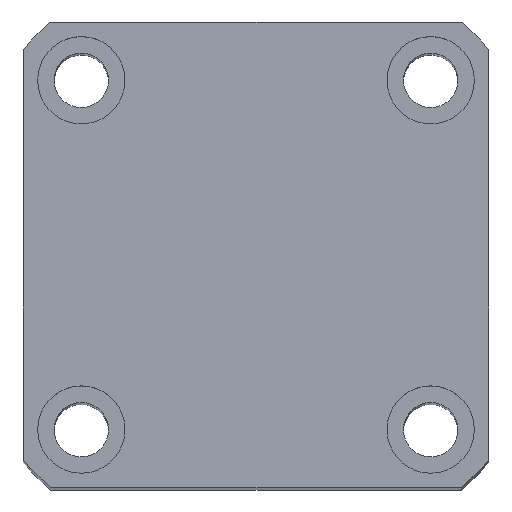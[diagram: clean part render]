
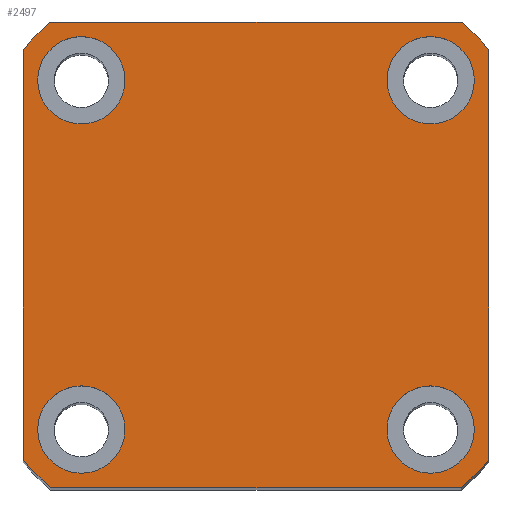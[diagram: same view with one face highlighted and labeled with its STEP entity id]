
A CAD part, top view. The second image highlights one B-rep face of the part: STEP entity #2497.
In plain terms, the highlighted planar face has unit normal (0, 0, 1) as drawn and (1, 0, 0) by its records, which use the part's own axes.
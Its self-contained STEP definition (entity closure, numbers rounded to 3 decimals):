
#54 = EDGE_CURVE ( 'NONE', #6651, #5654, #7591, .T. ) ;
#173 = EDGE_CURVE ( 'NONE', #2448, #7331, #5250, .T. ) ;
#281 = ORIENTED_EDGE ( 'NONE', *, *, #2162, .F. ) ;
#406 = CIRCLE ( 'NONE', #618, 4.5 ) ;
#460 = EDGE_LOOP ( 'NONE', ( #3754, #281 ) ) ;
#463 = DIRECTION ( 'NONE',  ( 0., 0., 1. ) ) ;
#482 = VERTEX_POINT ( 'NONE', #7792 ) ;
#589 = EDGE_CURVE ( 'NONE', #4722, #2448, #7112, .T. ) ;
#618 = AXIS2_PLACEMENT_3D ( 'NONE', #4843, #4381, #4356 ) ;
#712 = EDGE_CURVE ( 'NONE', #7085, #6561, #6348, .T. ) ;
#797 = AXIS2_PLACEMENT_3D ( 'NONE', #1603, #5931, #2244 ) ;
#856 = ORIENTED_EDGE ( 'NONE', *, *, #5613, .T. ) ;
#914 = CARTESIAN_POINT ( 'NONE',  ( 130., 21.166, -24. ) ) ;
#1013 = VECTOR ( 'NONE', #5710, 1000. ) ;
#1017 = VERTEX_POINT ( 'NONE', #4828 ) ;
#1026 = EDGE_CURVE ( 'NONE', #7331, #2629, #1920, .T. ) ;
#1052 = CARTESIAN_POINT ( 'NONE',  ( 130., 18., 13.5 ) ) ;
#1096 = LINE ( 'NONE', #4284, #4466 ) ;
#1099 = AXIS2_PLACEMENT_3D ( 'NONE', #6072, #2405, #6678 ) ;
#1102 = CARTESIAN_POINT ( 'NONE',  ( 130., -18., -22.5 ) ) ;
#1150 = DIRECTION ( 'NONE',  ( 1., 0., 0. ) ) ;
#1237 = ORIENTED_EDGE ( 'NONE', *, *, #712, .F. ) ;
#1389 = CIRCLE ( 'NONE', #1099, 4.5 ) ;
#1434 = CARTESIAN_POINT ( 'NONE',  ( 130., -24., 24. ) ) ;
#1595 = CIRCLE ( 'NONE', #797, 32. ) ;
#1603 = CARTESIAN_POINT ( 'NONE',  ( 130., 0., 0. ) ) ;
#1611 = FACE_BOUND ( 'NONE', #460, .T. ) ;
#1732 = EDGE_CURVE ( 'NONE', #3979, #1837, #7563, .T. ) ;
#1800 = FACE_OUTER_BOUND ( 'NONE', #3899, .T. ) ;
#1837 = VERTEX_POINT ( 'NONE', #914 ) ;
#1912 = AXIS2_PLACEMENT_3D ( 'NONE', #4241, #3784, #3755 ) ;
#1920 = LINE ( 'NONE', #1434, #6816 ) ;
#1943 = ORIENTED_EDGE ( 'NONE', *, *, #173, .T. ) ;
#1950 = AXIS2_PLACEMENT_3D ( 'NONE', #4901, #1150, #5505 ) ;
#2000 = EDGE_CURVE ( 'NONE', #1837, #3776, #3811, .T. ) ;
#2050 = EDGE_CURVE ( 'NONE', #2777, #1017, #406, .T. ) ;
#2059 = EDGE_CURVE ( 'NONE', #5654, #6651, #3603, .T. ) ;
#2157 = ORIENTED_EDGE ( 'NONE', *, *, #1026, .T. ) ;
#2162 = EDGE_CURVE ( 'NONE', #1017, #2777, #7656, .T. ) ;
#2244 = DIRECTION ( 'NONE',  ( 0., 0., -1. ) ) ;
#2264 = CARTESIAN_POINT ( 'NONE',  ( 130., 24., -24. ) ) ;
#2340 = CARTESIAN_POINT ( 'NONE',  ( 130., 18., 18. ) ) ;
#2377 = AXIS2_PLACEMENT_3D ( 'NONE', #6200, #6336, #5958 ) ;
#2405 = DIRECTION ( 'NONE',  ( 1., 0., 0. ) ) ;
#2448 = VERTEX_POINT ( 'NONE', #5173 ) ;
#2467 = VERTEX_POINT ( 'NONE', #2669 ) ;
#2497 = ADVANCED_FACE ( 'NONE', ( #1611, #4763, #7908, #3110, #1800 ), #6079, .T. ) ;
#2575 = CARTESIAN_POINT ( 'NONE',  ( 130., 24., 24. ) ) ;
#2629 = VERTEX_POINT ( 'NONE', #7064 ) ;
#2645 = CARTESIAN_POINT ( 'NONE',  ( 130., -24., 21.166 ) ) ;
#2669 = CARTESIAN_POINT ( 'NONE',  ( 130., -18., 13.5 ) ) ;
#2777 = VERTEX_POINT ( 'NONE', #1102 ) ;
#2878 = CARTESIAN_POINT ( 'NONE',  ( 130., 18., -22.5 ) ) ;
#2944 = DIRECTION ( 'NONE',  ( 0., 0., -1. ) ) ;
#2994 = DIRECTION ( 'NONE',  ( 0., 0., -1. ) ) ;
#3010 = CARTESIAN_POINT ( 'NONE',  ( 130., 0., 0. ) ) ;
#3018 = DIRECTION ( 'NONE',  ( 1., 0., 0. ) ) ;
#3062 = DIRECTION ( 'NONE',  ( 1., 0., 0. ) ) ;
#3073 = CARTESIAN_POINT ( 'NONE',  ( 130., 24., -21.166 ) ) ;
#3110 = FACE_BOUND ( 'NONE', #5193, .T. ) ;
#3128 = CARTESIAN_POINT ( 'NONE',  ( 130., 18., -18. ) ) ;
#3377 = CARTESIAN_POINT ( 'NONE',  ( 130., 18., 22.5 ) ) ;
#3414 = AXIS2_PLACEMENT_3D ( 'NONE', #7881, #7170, #6548 ) ;
#3495 = DIRECTION ( 'NONE',  ( 1., 0., 0. ) ) ;
#3537 = ORIENTED_EDGE ( 'NONE', *, *, #3590, .F. ) ;
#3590 = EDGE_CURVE ( 'NONE', #2467, #482, #7163, .T. ) ;
#3603 = CIRCLE ( 'NONE', #1912, 4.5 ) ;
#3667 = DIRECTION ( 'NONE',  ( 0., 0., -1. ) ) ;
#3754 = ORIENTED_EDGE ( 'NONE', *, *, #2050, .F. ) ;
#3755 = DIRECTION ( 'NONE',  ( 0., 0., -1. ) ) ;
#3776 = VERTEX_POINT ( 'NONE', #3073 ) ;
#3784 = DIRECTION ( 'NONE',  ( 1., 0., 0. ) ) ;
#3811 = CIRCLE ( 'NONE', #7385, 32. ) ;
#3851 = ORIENTED_EDGE ( 'NONE', *, *, #589, .T. ) ;
#3899 = EDGE_LOOP ( 'NONE', ( #5995, #4224, #856, #4061, #3851, #1943, #2157, #5056 ) ) ;
#3978 = DIRECTION ( 'NONE',  ( 0., -1., 0. ) ) ;
#3979 = VERTEX_POINT ( 'NONE', #7971 ) ;
#4061 = ORIENTED_EDGE ( 'NONE', *, *, #4822, .T. ) ;
#4133 = VECTOR ( 'NONE', #3978, 1000. ) ;
#4224 = ORIENTED_EDGE ( 'NONE', *, *, #2000, .T. ) ;
#4241 = CARTESIAN_POINT ( 'NONE',  ( 130., 18., -18. ) ) ;
#4284 = CARTESIAN_POINT ( 'NONE',  ( 130., 24., 24. ) ) ;
#4356 = DIRECTION ( 'NONE',  ( 0., 0., -1. ) ) ;
#4381 = DIRECTION ( 'NONE',  ( 1., 0., 0. ) ) ;
#4421 = ORIENTED_EDGE ( 'NONE', *, *, #5563, .F. ) ;
#4466 = VECTOR ( 'NONE', #463, 1000. ) ;
#4666 = CIRCLE ( 'NONE', #6429, 4.5 ) ;
#4722 = VERTEX_POINT ( 'NONE', #6848 ) ;
#4763 = FACE_BOUND ( 'NONE', #5093, .T. ) ;
#4822 = EDGE_CURVE ( 'NONE', #5301, #4722, #1595, .T. ) ;
#4828 = CARTESIAN_POINT ( 'NONE',  ( 130., -18., -13.5 ) ) ;
#4842 = AXIS2_PLACEMENT_3D ( 'NONE', #7758, #7741, #7401 ) ;
#4843 = CARTESIAN_POINT ( 'NONE',  ( 130., -18., -18. ) ) ;
#4901 = CARTESIAN_POINT ( 'NONE',  ( 130., 0., 0. ) ) ;
#5056 = ORIENTED_EDGE ( 'NONE', *, *, #7854, .T. ) ;
#5093 = EDGE_LOOP ( 'NONE', ( #3537, #5160 ) ) ;
#5160 = ORIENTED_EDGE ( 'NONE', *, *, #7814, .F. ) ;
#5173 = CARTESIAN_POINT ( 'NONE',  ( 130., -21.166, 24. ) ) ;
#5193 = EDGE_LOOP ( 'NONE', ( #1237, #4421 ) ) ;
#5250 = CIRCLE ( 'NONE', #3414, 32. ) ;
#5301 = VERTEX_POINT ( 'NONE', #7259 ) ;
#5452 = DIRECTION ( 'NONE',  ( 0., 0., -1. ) ) ;
#5488 = AXIS2_PLACEMENT_3D ( 'NONE', #6028, #6683, #5452 ) ;
#5505 = DIRECTION ( 'NONE',  ( 0., 0., -1. ) ) ;
#5550 = EDGE_LOOP ( 'NONE', ( #7765, #7948 ) ) ;
#5563 = EDGE_CURVE ( 'NONE', #6561, #7085, #4666, .T. ) ;
#5613 = EDGE_CURVE ( 'NONE', #3776, #5301, #1096, .T. ) ;
#5654 = VERTEX_POINT ( 'NONE', #6064 ) ;
#5710 = DIRECTION ( 'NONE',  ( 0., 1., 0. ) ) ;
#5931 = DIRECTION ( 'NONE',  ( 1., 0., 0. ) ) ;
#5958 = DIRECTION ( 'NONE',  ( 0., 0., -1. ) ) ;
#5995 = ORIENTED_EDGE ( 'NONE', *, *, #1732, .T. ) ;
#6028 = CARTESIAN_POINT ( 'NONE',  ( 130., 0., 0. ) ) ;
#6064 = CARTESIAN_POINT ( 'NONE',  ( 130., 18., -13.5 ) ) ;
#6072 = CARTESIAN_POINT ( 'NONE',  ( 130., -18., 18. ) ) ;
#6079 = PLANE ( 'NONE',  #5488 ) ;
#6200 = CARTESIAN_POINT ( 'NONE',  ( 130., 18., 18. ) ) ;
#6336 = DIRECTION ( 'NONE',  ( 1., 0., 0. ) ) ;
#6348 = CIRCLE ( 'NONE', #2377, 4.5 ) ;
#6429 = AXIS2_PLACEMENT_3D ( 'NONE', #2340, #6625, #2994 ) ;
#6548 = DIRECTION ( 'NONE',  ( 0., 0., -1. ) ) ;
#6561 = VERTEX_POINT ( 'NONE', #3377 ) ;
#6625 = DIRECTION ( 'NONE',  ( 1., 0., 0. ) ) ;
#6651 = VERTEX_POINT ( 'NONE', #2878 ) ;
#6678 = DIRECTION ( 'NONE',  ( 0., 0., -1. ) ) ;
#6683 = DIRECTION ( 'NONE',  ( 1., 0., 0. ) ) ;
#6816 = VECTOR ( 'NONE', #7197, 1000. ) ;
#6848 = CARTESIAN_POINT ( 'NONE',  ( 130., 21.166, 24. ) ) ;
#7064 = CARTESIAN_POINT ( 'NONE',  ( 130., -24., -21.166 ) ) ;
#7085 = VERTEX_POINT ( 'NONE', #1052 ) ;
#7107 = CARTESIAN_POINT ( 'NONE',  ( 130., -18., 18. ) ) ;
#7112 = LINE ( 'NONE', #2575, #4133 ) ;
#7163 = CIRCLE ( 'NONE', #7608, 4.5 ) ;
#7170 = DIRECTION ( 'NONE',  ( 1., 0., 0. ) ) ;
#7185 = AXIS2_PLACEMENT_3D ( 'NONE', #3128, #3018, #2944 ) ;
#7197 = DIRECTION ( 'NONE',  ( 0., 0., -1. ) ) ;
#7259 = CARTESIAN_POINT ( 'NONE',  ( 130., 24., 21.166 ) ) ;
#7331 = VERTEX_POINT ( 'NONE', #2645 ) ;
#7385 = AXIS2_PLACEMENT_3D ( 'NONE', #3010, #3062, #3667 ) ;
#7401 = DIRECTION ( 'NONE',  ( 0., 0., -1. ) ) ;
#7533 = CIRCLE ( 'NONE', #1950, 32. ) ;
#7563 = LINE ( 'NONE', #2264, #1013 ) ;
#7591 = CIRCLE ( 'NONE', #7185, 4.5 ) ;
#7608 = AXIS2_PLACEMENT_3D ( 'NONE', #7107, #3495, #7702 ) ;
#7656 = CIRCLE ( 'NONE', #4842, 4.5 ) ;
#7702 = DIRECTION ( 'NONE',  ( 0., 0., -1. ) ) ;
#7741 = DIRECTION ( 'NONE',  ( 1., 0., 0. ) ) ;
#7758 = CARTESIAN_POINT ( 'NONE',  ( 130., -18., -18. ) ) ;
#7765 = ORIENTED_EDGE ( 'NONE', *, *, #54, .F. ) ;
#7792 = CARTESIAN_POINT ( 'NONE',  ( 130., -18., 22.5 ) ) ;
#7814 = EDGE_CURVE ( 'NONE', #482, #2467, #1389, .T. ) ;
#7854 = EDGE_CURVE ( 'NONE', #2629, #3979, #7533, .T. ) ;
#7881 = CARTESIAN_POINT ( 'NONE',  ( 130., 0., 0. ) ) ;
#7908 = FACE_BOUND ( 'NONE', #5550, .T. ) ;
#7948 = ORIENTED_EDGE ( 'NONE', *, *, #2059, .F. ) ;
#7971 = CARTESIAN_POINT ( 'NONE',  ( 130., -21.166, -24. ) ) ;
